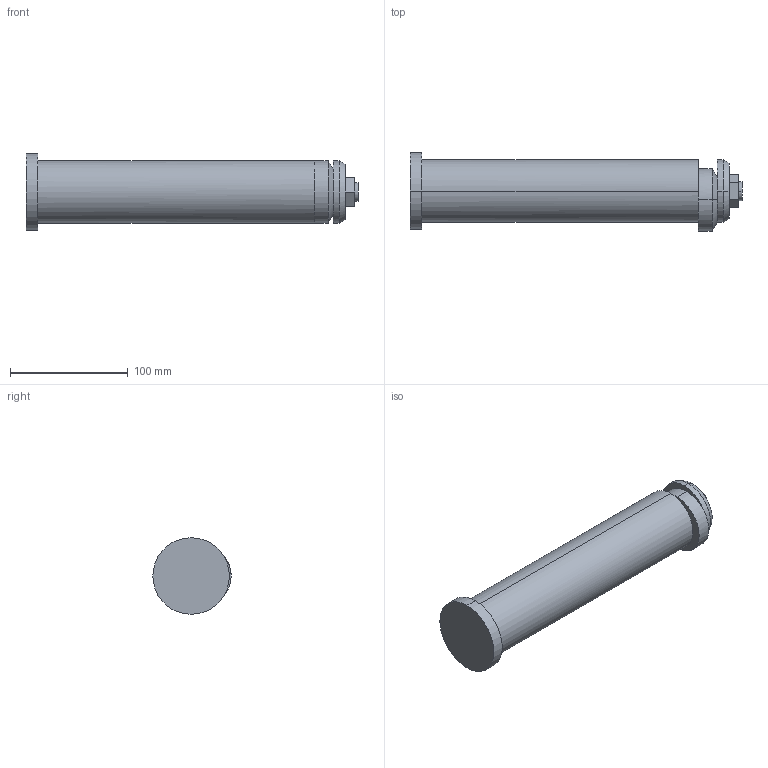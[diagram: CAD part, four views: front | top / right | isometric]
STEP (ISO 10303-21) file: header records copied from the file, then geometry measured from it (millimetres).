
FILE_DESCRIPTION(('CATIA V5 STEP Exchange'),'2;1');
FILE_NAME('C:\Users\Raffaele\Desktop\3D X SITO CF\PERNI -STAFFE SOLLEVAMENTO\395PSF\GSB_OILLESS_C10302053235\STEP-2.03\395PSF-4.stp','2019-07-03T09:17:19+00:00',('none'),('none'),'CATIA Version 5 Release 20 GA (IN-10)','CATIA V5 STEP AP203','none');
FILE_SCHEMA(('CONFIG_CONTROL_DESIGN'));
Length unit declared in the file: millimetre
Products named in the file (1): 395PSF-4
Bounding box: 282 x 66.5 x 65 mm (x, y, z)
Volume: 597807.3 mm3; surface area: 59041.1 mm2
Topology: 1 solids, 2 shells, 34 faces, 100 edges, 73 vertices
Faces by surface type: plane 16, cylinder 14, cone 4
Entity records: 1360 total; most frequent: CARTESIAN_POINT 422, ORIENTED_EDGE 200, DIRECTION 151, EDGE_CURVE 100, AXIS2_PLACEMENT_3D 82, VERTEX_POINT 73, CIRCLE 47, EDGE_LOOP 39
